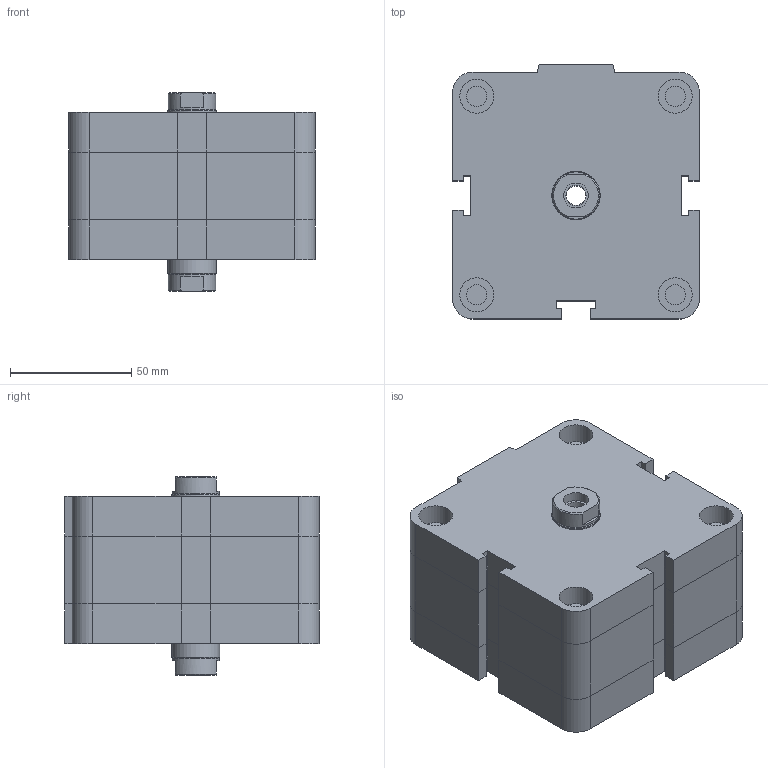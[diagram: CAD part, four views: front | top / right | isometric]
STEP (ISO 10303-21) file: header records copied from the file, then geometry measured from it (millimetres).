
FILE_DESCRIPTION((''),'2;1');
FILE_NAME('I:\Area Tecnica\Disegni\VARIE-3D\Componenti\EUROPE\15##_###_####_06_#\1581_80_0005_06_1.iam.stp','2009-04-20T15:11:32',(''),(''),'Autodesk Inventor 2009','Autodesk Inventor 2009','');
FILE_SCHEMA(('AUTOMOTIVE_DESIGN { 1 0 10303 214 1 1 1 1 }'));
Length unit declared in the file: millimetre
Products named in the file (3): 1581_80_0005_06_1; 1581_80_0005_03_1_C; 1561_80_0005_06_1_S
Assembly tree (2 placements, depth 2):
  1581_80_0005_06_1
    1581_80_0005_03_1_C
    1561_80_0005_06_1_S
Bounding box: 102 x 105 x 82 mm (x, y, z)
Volume: 601463.7 mm3; surface area: 66343.2 mm2
Topology: 2 solids, 2 shells, 175 faces, 382 edges, 233 vertices
Faces by surface type: plane 114, bspline 30, cylinder 25, cone 6
Full cylindrical faces by diameter (mm): 8.376 x5, 10.3 x1, 14 x4, 19.5 x2, 20 x1
Entity records: 4805 total; most frequent: CARTESIAN_POINT 1042, DIRECTION 712, ORIENTED_EDGE 680, EDGE_CURVE 340, VECTOR 252, LINE 252, AXIS2_PLACEMENT_3D 230, EDGE_LOOP 230
